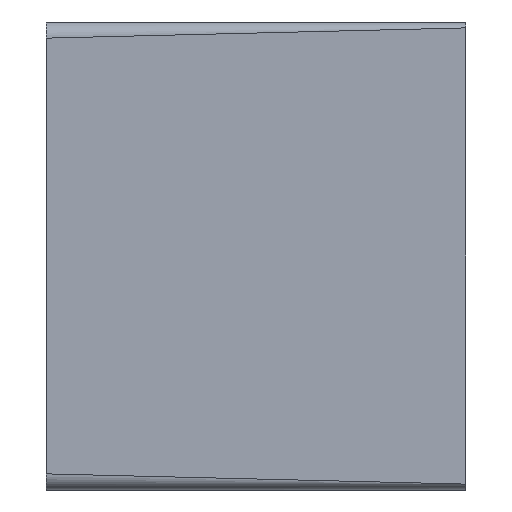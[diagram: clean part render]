
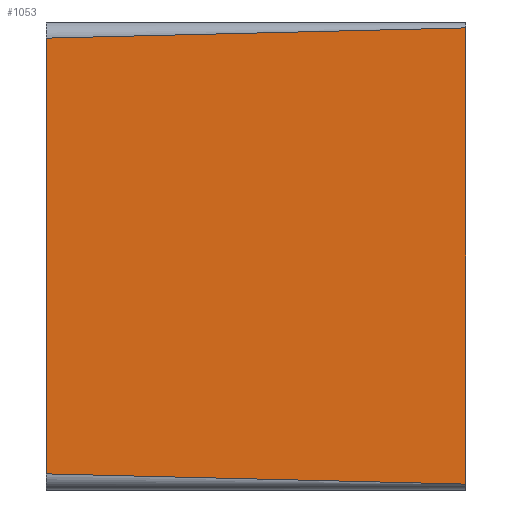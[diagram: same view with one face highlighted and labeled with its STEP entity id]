
A CAD part, left-side view. The second image highlights one B-rep face of the part: STEP entity #1053.
In plain terms, the highlighted planar face has unit normal (-1, -0.009, 0).
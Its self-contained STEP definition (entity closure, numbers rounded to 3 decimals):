
#535 = EDGE_CURVE( '', #869, #1283, #1453, .T. );
#697 = EDGE_CURVE( '', #855, #1007, #1633, .T. );
#723 = EDGE_CURVE( '', #869, #855, #1662, .T. );
#855 = VERTEX_POINT( '', #1815 );
#869 = VERTEX_POINT( '', #1830 );
#979 = EDGE_CURVE( '', #1007, #1283, #1951, .T. );
#1007 = VERTEX_POINT( '', #1985 );
#1053 = ADVANCED_FACE( '', ( #2034 ), #2035, .T. );
#1283 = VERTEX_POINT( '', #2282 );
#1453 = LINE( '', #2481, #2482 );
#1633 = LINE( '', #2730, #2731 );
#1662 = ( B_SPLINE_CURVE( 2, ( #2767, #2768, #2769, #2770, #2771, #2772, #2773, #2774, #2775, #2776, #2777, #2778, #2779, #2780, #2781, #2782 ), .UNSPECIFIED., .F., .F. )B_SPLINE_CURVE_WITH_KNOTS( ( 3, 1, 1, 1, 1, 1, 1, 1, 1, 1, 1, 1, 1, 1, 3 ), ( 0., 2.587, 5.025, 7.328, 9.494, 11.522, 13.411, 15.16, 16.77, 18.239, 19.57, 20.763, 21.819, 22.742, 26.012 ), .UNSPECIFIED. )RATIONAL_B_SPLINE_CURVE( ( 1., 0.994, 0.985, 0.979, 0.974, 0.972, 0.971, 0.971, 0.972, 0.974, 0.977, 0.98, 0.983, 0.986, 0.993, 1. ) )BOUNDED_CURVE(  )REPRESENTATION_ITEM( '' )GEOMETRIC_REPRESENTATION_ITEM(  )CURVE(  ) );
#1815 = CARTESIAN_POINT( '', ( -10., 0., 13.5 ) );
#1830 = CARTESIAN_POINT( '', ( -9.773, -26., 14.134 ) );
#1951 = ( B_SPLINE_CURVE( 2, ( #3158, #3159, #3160, #3161, #3162, #3163, #3164, #3165, #3166, #3167, #3168, #3169, #3170, #3171, #3172, #3173 ), .UNSPECIFIED., .F., .F. )B_SPLINE_CURVE_WITH_KNOTS( ( 3, 1, 1, 1, 1, 1, 1, 1, 1, 1, 1, 1, 1, 1, 3 ), ( 26.012, 28.889, 29.75, 30.745, 31.877, 33.152, 34.572, 36.143, 37.87, 39.759, 41.818, 44.059, 46.495, 49.142, 52.023 ), .UNSPECIFIED. )RATIONAL_B_SPLINE_CURVE( ( 1., 0.994, 0.987, 0.984, 0.981, 0.978, 0.975, 0.973, 0.971, 0.971, 0.971, 0.973, 0.977, 0.984, 0.994, 1. ) )BOUNDED_CURVE(  )REPRESENTATION_ITEM( '' )GEOMETRIC_REPRESENTATION_ITEM(  )CURVE(  ) );
#1985 = CARTESIAN_POINT( '', ( -10., 0., -13.5 ) );
#2034 = FACE_OUTER_BOUND( '', #3293, .T. );
#2035 = PLANE( '', #3294 );
#2282 = CARTESIAN_POINT( '', ( -9.773, -26., -14.134 ) );
#2481 = CARTESIAN_POINT( '', ( -9.773, -26., 14.5 ) );
#2482 = VECTOR( '', #3868, 1. );
#2730 = CARTESIAN_POINT( '', ( -10., 0., 14.5 ) );
#2731 = VECTOR( '', #4069, 1. );
#2767 = CARTESIAN_POINT( '', ( -9.773, -26., 14.134 ) );
#2768 = CARTESIAN_POINT( '', ( -9.794, -23.551, 14.108 ) );
#2769 = CARTESIAN_POINT( '', ( -9.833, -19.176, 14.055 ) );
#2770 = CARTESIAN_POINT( '', ( -9.866, -15.396, 14.002 ) );
#2771 = CARTESIAN_POINT( '', ( -9.894, -12.172, 13.949 ) );
#2772 = CARTESIAN_POINT( '', ( -9.917, -9.465, 13.899 ) );
#2773 = CARTESIAN_POINT( '', ( -9.937, -7.228, 13.85 ) );
#2774 = CARTESIAN_POINT( '', ( -9.953, -5.412, 13.805 ) );
#2775 = CARTESIAN_POINT( '', ( -9.965, -3.964, 13.762 ) );
#2776 = CARTESIAN_POINT( '', ( -9.975, -2.834, 13.722 ) );
#2777 = CARTESIAN_POINT( '', ( -9.983, -1.97, 13.685 ) );
#2778 = CARTESIAN_POINT( '', ( -9.988, -1.326, 13.653 ) );
#2779 = CARTESIAN_POINT( '', ( -9.992, -0.861, 13.623 ) );
#2780 = CARTESIAN_POINT( '', ( -9.995, -0.534, 13.597 ) );
#2781 = CARTESIAN_POINT( '', ( -10., 0., 13.543 ) );
#2782 = CARTESIAN_POINT( '', ( -10., 0., 13.5 ) );
#3158 = CARTESIAN_POINT( '', ( -10., 0., -13.5 ) );
#3159 = CARTESIAN_POINT( '', ( -10., 0., -13.538 ) );
#3160 = CARTESIAN_POINT( '', ( -9.996, -0.419, -13.586 ) );
#3161 = CARTESIAN_POINT( '', ( -9.994, -0.691, -13.61 ) );
#3162 = CARTESIAN_POINT( '', ( -9.991, -1.087, -13.638 ) );
#3163 = CARTESIAN_POINT( '', ( -9.986, -1.646, -13.67 ) );
#3164 = CARTESIAN_POINT( '', ( -9.979, -2.408, -13.705 ) );
#3165 = CARTESIAN_POINT( '', ( -9.97, -3.425, -13.744 ) );
#3166 = CARTESIAN_POINT( '', ( -9.959, -4.753, -13.786 ) );
#3167 = CARTESIAN_POINT( '', ( -9.944, -6.453, -13.832 ) );
#3168 = CARTESIAN_POINT( '', ( -9.925, -8.598, -13.881 ) );
#3169 = CARTESIAN_POINT( '', ( -9.902, -11.264, -13.933 ) );
#3170 = CARTESIAN_POINT( '', ( -9.873, -14.535, -13.989 ) );
#3171 = CARTESIAN_POINT( '', ( -9.839, -18.505, -14.046 ) );
#3172 = CARTESIAN_POINT( '', ( -9.797, -23.271, -14.105 ) );
#3173 = CARTESIAN_POINT( '', ( -9.773, -26., -14.134 ) );
#3293 = EDGE_LOOP( '', ( #4629, #4630, #4631, #4632 ) );
#3294 = AXIS2_PLACEMENT_3D( '', #4633, #4634, #4635 );
#3868 = DIRECTION( '', ( 0., 0., -1. ) );
#4069 = DIRECTION( '', ( 0., 0., -1. ) );
#4629 = ORIENTED_EDGE( '', *, *, #979, .T. );
#4630 = ORIENTED_EDGE( '', *, *, #535, .F. );
#4631 = ORIENTED_EDGE( '', *, *, #723, .T. );
#4632 = ORIENTED_EDGE( '', *, *, #697, .T. );
#4633 = CARTESIAN_POINT( '', ( -10., 0., 14.5 ) );
#4634 = DIRECTION( '', ( -1., -0.009, 0. ) );
#4635 = DIRECTION( '', ( -0.009, 1., 0. ) );
